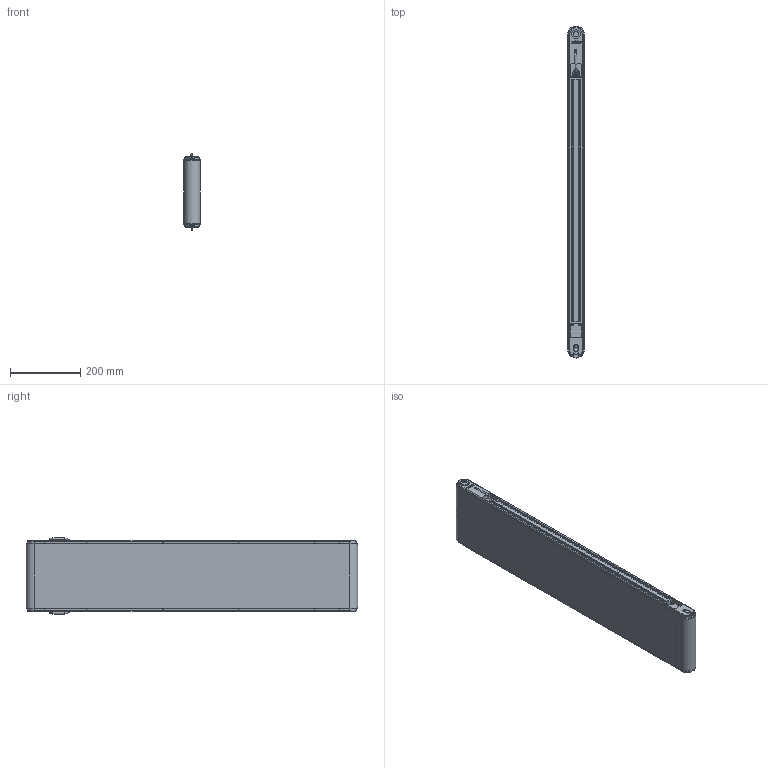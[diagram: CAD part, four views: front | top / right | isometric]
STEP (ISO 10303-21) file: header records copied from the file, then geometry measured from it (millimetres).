
FILE_DESCRIPTION(/* description */ (''),/* implementation_level */ '2;1');
FILE_NAME(/* name */ 'G:\DATEN\CAD\Förderband\Marketing\3D-Modelle (Standard)\FR-40-200\FR-40-200-900-K.stp',/* time_stamp */ '2019-05-08T09:21:46+02:00',/* author */ ('melanie.ochs'),/* organization */ (''),/* preprocessor_version */ 'ST-DEVELOPER v17',/* originating_system */ 'Autodesk Inventor 2019',/* authorisation */ '');
FILE_SCHEMA (('CONFIG_CONTROL_DESIGN'));
Length unit declared in the file: centimetre
Products named in the file (1): FR-40-200-900-K
Bounding box: 46.6 x 946.6 x 217.07 mm (x, y, z)
Volume: 2963357.8 mm3; surface area: 1260191.9 mm2
Topology: 7 solids, 25 shells, 1136 faces, 3073 edges, 2031 vertices
Faces by surface type: plane 563, cylinder 332, bspline 124, cone 79, torus 38
Full cylindrical faces by diameter (mm): 2 x4, 4 x6, 4.3 x4, 4.917 x1, 5 x14, 5.5 x8, 6 x4, 6.647 x2, 8 x4, 8.3 x8, 8.5 x8, 8.773 x2, 10 x2, 11 x2, 12 x3, 15 x2, 20 x4, 25 x2, 28 x4
Entity records: 38584 total; most frequent: CARTESIAN_POINT 9304, ORIENTED_EDGE 6122, DIRECTION 5571, EDGE_CURVE 3061, VERTEX_POINT 2031, AXIS2_PLACEMENT_3D 1975, LINE 1621, VECTOR 1621
